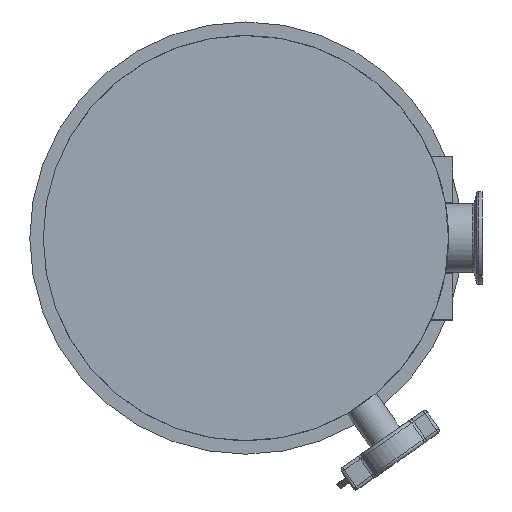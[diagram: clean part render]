
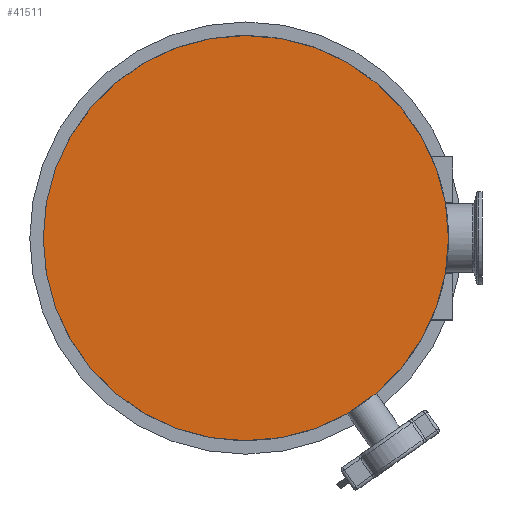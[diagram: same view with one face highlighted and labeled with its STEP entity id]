
A CAD part, front view. The second image highlights one B-rep face of the part: STEP entity #41511.
In plain terms, the highlighted planar face has unit normal (0, -1, 0).
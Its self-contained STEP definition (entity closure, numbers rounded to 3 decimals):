
#12640=CARTESIAN_POINT('',(0.,-55.5,0.));
#12641=DIRECTION('',(0.,1.,0.));
#12642=DIRECTION('',(-1.,0.,0.));
#12643=AXIS2_PLACEMENT_3D('',#12640,#12641,#12642);
#12645=CARTESIAN_POINT('',(0.,-55.5,0.));
#12646=DIRECTION('',(0.,-1.,0.));
#12647=DIRECTION('',(-1.,0.,0.));
#12648=AXIS2_PLACEMENT_3D('',#12645,#12646,#12647);
#14207=CARTESIAN_POINT('',(-120.,-55.5,0.));
#14209=VERTEX_POINT('',#14207);
#14233=CARTESIAN_POINT('',(120.,-55.5,0.));
#14235=VERTEX_POINT('',#14233);
#41502=CARTESIAN_POINT('',(0.,-55.5,0.));
#41503=DIRECTION('',(0.,-1.,0.));
#41504=DIRECTION('',(-1.,0.,0.));
#41505=AXIS2_PLACEMENT_3D('',#41502,#41503,#41504);
#41506=PLANE('',#41505);
#41507=ORIENTED_EDGE('',*,*,#41171,.T.);
#41508=ORIENTED_EDGE('',*,*,#41398,.F.);
#41509=EDGE_LOOP('',(#41507,#41508));
#41510=FACE_OUTER_BOUND('',#41509,.F.);
#41511=ADVANCED_FACE('',(#41510),#41506,.T.);
#12644=CIRCLE('',#12643,120.);
#12649=CIRCLE('',#12648,120.);
#41171=EDGE_CURVE('',#14209,#14235,#12644,.T.);
#41398=EDGE_CURVE('',#14209,#14235,#12649,.T.);
